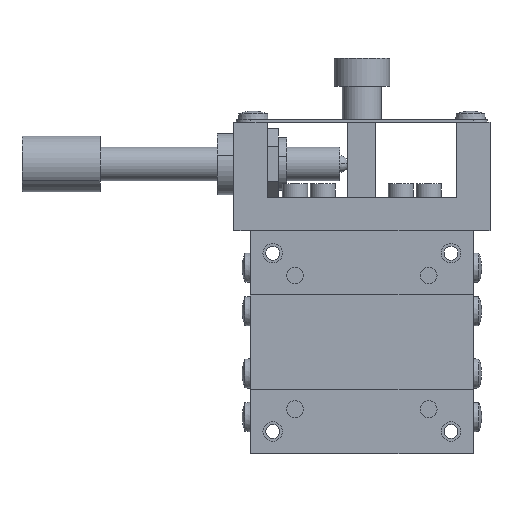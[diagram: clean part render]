
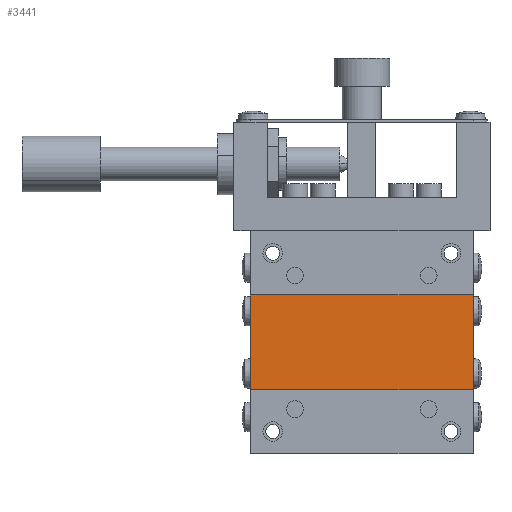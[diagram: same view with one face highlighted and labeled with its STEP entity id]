
A CAD part, front view. The second image highlights one B-rep face of the part: STEP entity #3441.
In plain terms, the highlighted planar face has unit normal (0, -1, 0).
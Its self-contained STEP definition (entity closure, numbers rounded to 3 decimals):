
#985 = VECTOR ( 'NONE', #1001, 1000. ) ;
#986 = CARTESIAN_POINT ( 'NONE',  ( 20., 0.3, -8.5 ) ) ;
#987 = LINE ( 'NONE', #986, #985 ) ;
#993 = DIRECTION ( 'NONE',  ( 0., 0., -1. ) ) ;
#994 = VECTOR ( 'NONE', #993, 1000. ) ;
#995 = CARTESIAN_POINT ( 'NONE',  ( 20., 0.3, 8.5 ) ) ;
#996 = LINE ( 'NONE', #995, #994 ) ;
#1000 = CARTESIAN_POINT ( 'NONE',  ( 20., 0.3, -8.5 ) ) ;
#1001 = DIRECTION ( 'NONE',  ( -1., 0., 0. ) ) ;
#3249 = ORIENTED_EDGE ( 'NONE', *, *, #3250, .F. ) ;
#3250 = EDGE_CURVE ( 'NONE', #3251, #3443, #987, .T. ) ;
#3251 = VERTEX_POINT ( 'NONE', #1000 ) ;
#3252 = ORIENTED_EDGE ( 'NONE', *, *, #3253, .F. ) ;
#3253 = EDGE_CURVE ( 'NONE', #3435, #3251, #996, .T. ) ;
#3254 = ORIENTED_EDGE ( 'NONE', *, *, #3434, .T. ) ;
#3375 = ORIENTED_EDGE ( 'NONE', *, *, #3376, .T. ) ;
#3376 = EDGE_CURVE ( 'NONE', #3432, #3443, #5093, .T. ) ;
#3432 = VERTEX_POINT ( 'NONE', #5110 ) ;
#3434 = EDGE_CURVE ( 'NONE', #3435, #3432, #5109, .T. ) ;
#3435 = VERTEX_POINT ( 'NONE', #5105 ) ;
#3441 = ADVANCED_FACE ( 'NONE', ( #5143 ), #5149, .F. ) ;
#3442 = EDGE_LOOP ( 'NONE', ( #3375, #3249, #3252, #3254 ) ) ;
#3443 = VERTEX_POINT ( 'NONE', #5137 ) ;
#5084 = DIRECTION ( 'NONE',  ( 0., 0., -1. ) ) ;
#5085 = VECTOR ( 'NONE', #5084, 1000. ) ;
#5086 = CARTESIAN_POINT ( 'NONE',  ( -20., 0.3, 8.5 ) ) ;
#5093 = LINE ( 'NONE', #5086, #5085 ) ;
#5105 = CARTESIAN_POINT ( 'NONE',  ( 20., 0.3, 8.5 ) ) ;
#5106 = DIRECTION ( 'NONE',  ( -1., 0., 0. ) ) ;
#5107 = VECTOR ( 'NONE', #5106, 1000. ) ;
#5108 = CARTESIAN_POINT ( 'NONE',  ( 20., 0.3, 8.5 ) ) ;
#5109 = LINE ( 'NONE', #5108, #5107 ) ;
#5110 = CARTESIAN_POINT ( 'NONE',  ( -20., 0.3, 8.5 ) ) ;
#5137 = CARTESIAN_POINT ( 'NONE',  ( -20., 0.3, -8.5 ) ) ;
#5143 = FACE_OUTER_BOUND ( 'NONE', #3442, .T. ) ;
#5145 = DIRECTION ( 'NONE',  ( 0., 0., 1. ) ) ;
#5146 = DIRECTION ( 'NONE',  ( 0., 1., 0. ) ) ;
#5147 = CARTESIAN_POINT ( 'NONE',  ( 20., 0.3, 8.5 ) ) ;
#5148 = AXIS2_PLACEMENT_3D ( 'NONE', #5147, #5146, #5145 ) ;
#5149 = PLANE ( 'NONE',  #5148 ) ;
